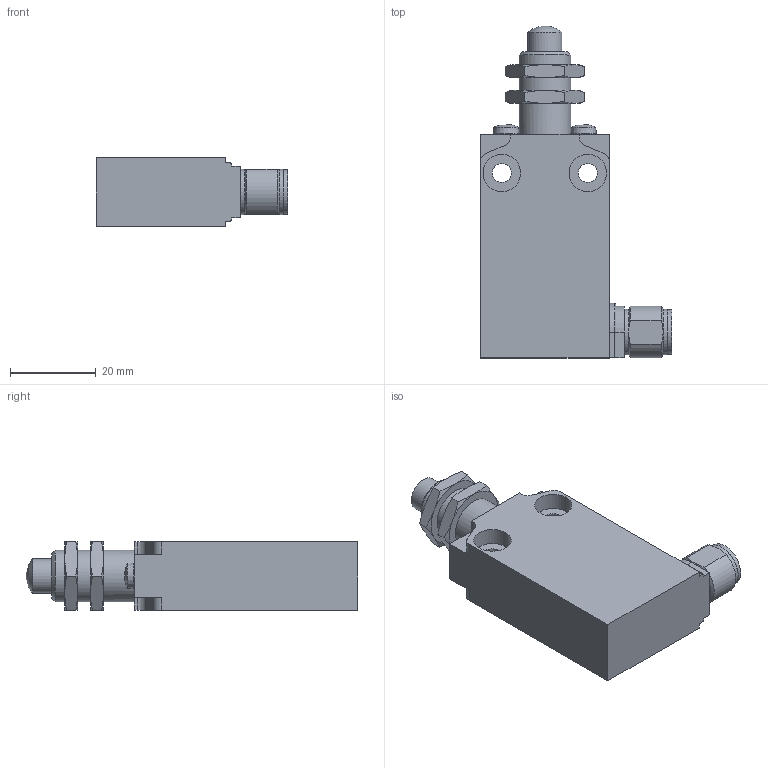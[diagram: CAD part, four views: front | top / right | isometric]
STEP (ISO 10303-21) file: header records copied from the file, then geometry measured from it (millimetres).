
FILE_DESCRIPTION(/* description */ (''),/* implementation_level */ '2;1');
FILE_NAME(/* name */ 'C:\Users\servizio.tecnico\Desktop\CADENAS\3D\EP1_STP\STP_EP1_G21M.stp',/* time_stamp */ '2017-09-04T11:10:39+02:00',/* author */ ('servizio.tecnico'),/* organization */ (''),/* preprocessor_version */ 'ST-DEVELOPER v16.1',/* originating_system */ 'Autodesk Inventor 2016',/* authorisation */ '');
FILE_SCHEMA (('AUTOMOTIVE_DESIGN { 1 0 10303 214 3 1 1 }'));
Length unit declared in the file: millimetre
Products named in the file (3): Product; EP1G21-M; BASE ASSI 
Assembly tree (2 placements, depth 3):
  BASE ASSI 
    EP1G21-M
      Product
Bounding box: 44.5 x 77.2 x 16 mm (x, y, z)
Volume: 27964.1 mm3; surface area: 10598.4 mm2
Topology: 5 solids, 5 shells, 144 faces, 344 edges, 215 vertices
Faces by surface type: plane 67, cylinder 36, cone 35, torus 3, sphere 3
Full cylindrical faces by diameter (mm): 4.4 x2, 7.95 x1, 8.05 x1, 8.7 x4, 10.3 x1, 10.6 x2, 12 x3
Entity records: 4040 total; most frequent: CARTESIAN_POINT 796, DIRECTION 666, ORIENTED_EDGE 626, EDGE_CURVE 313, AXIS2_PLACEMENT_3D 268, VERTEX_POINT 206, EDGE_LOOP 179, FACE_OUTER_BOUND 144
